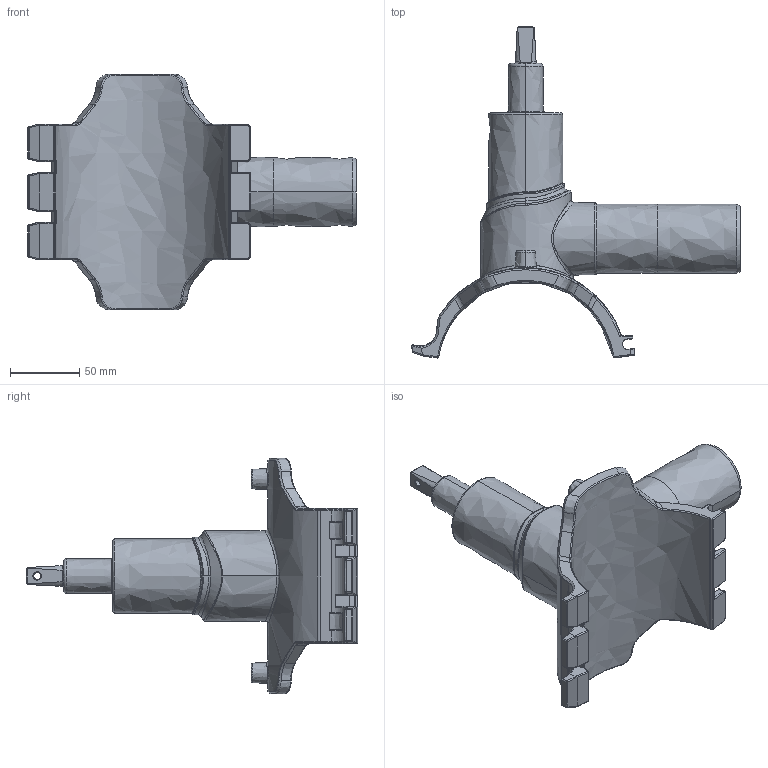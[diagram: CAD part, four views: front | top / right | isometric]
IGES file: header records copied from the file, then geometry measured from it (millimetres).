
Start section:  PTC IGES file: dav2_d125_50_01.igs
Global section: file name: dav2_d125_50_01.igs; native system: Creo Parametric by PTC Inc.; preprocessor: 2019030; author: mikulicp; organization: Unknown; date: 20210622.135626; units: millimetre
Bounding box: 237.39 x 239.78 x 170 mm (x, y, z)
Surface area: 117769.2 mm2 (no closed solid volume)
Topology: 0 solids, 0 shells, 575 faces, 2784 edges, 2778 vertices
Faces by surface type: bspline 575
